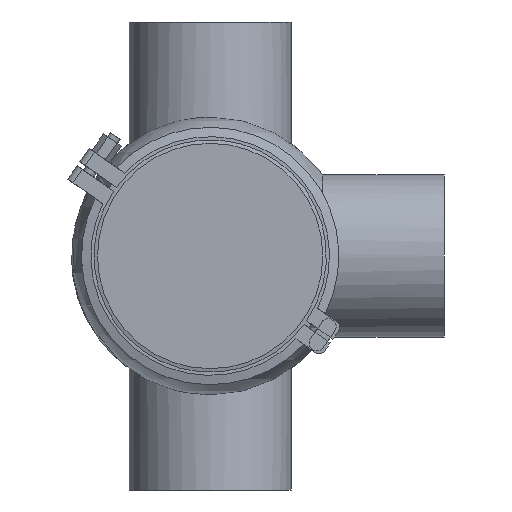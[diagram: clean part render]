
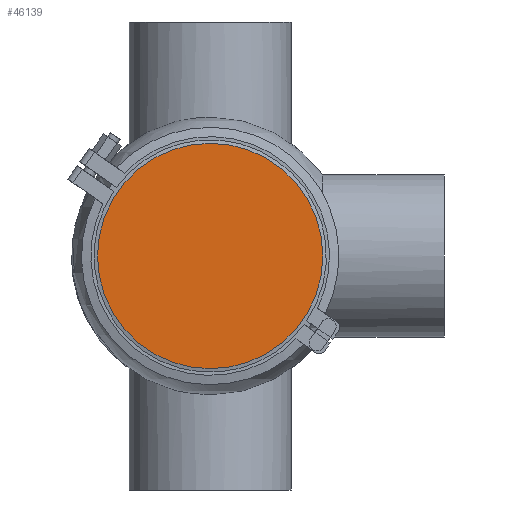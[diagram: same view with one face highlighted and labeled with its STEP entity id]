
A CAD part, front view. The second image highlights one B-rep face of the part: STEP entity #46139.
In plain terms, the highlighted planar face has unit normal (0, -1, 0).
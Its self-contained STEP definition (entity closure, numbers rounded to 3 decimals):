
#5348 = DIRECTION ( 'NONE',  ( 0., 1., 0. ) ) ;
#10088 = PLANE ( 'NONE',  #50427 ) ;
#11118 = CARTESIAN_POINT ( 'NONE',  ( 0., 0., 72.25 ) ) ;
#13773 = DIRECTION ( 'NONE',  ( 0., -1., 0. ) ) ;
#14720 = FACE_OUTER_BOUND ( 'NONE', #33154, .T. ) ;
#16163 = DIRECTION ( 'NONE',  ( 0., 0., 1. ) ) ;
#18784 = CIRCLE ( 'NONE', #31666, 72.25 ) ;
#19085 = ORIENTED_EDGE ( 'NONE', *, *, #20035, .F. ) ;
#20035 = EDGE_CURVE ( 'NONE', #49217, #49217, #18784, .T. ) ;
#23121 = DIRECTION ( 'NONE',  ( 0., 0., -1. ) ) ;
#28926 = CARTESIAN_POINT ( 'NONE',  ( 0., 0., 0. ) ) ;
#31666 = AXIS2_PLACEMENT_3D ( 'NONE', #28926, #5348, #16163 ) ;
#33154 = EDGE_LOOP ( 'NONE', ( #19085 ) ) ;
#46139 = ADVANCED_FACE ( 'NONE', ( #14720 ), #10088, .T. ) ;
#49217 = VERTEX_POINT ( 'NONE', #11118 ) ;
#50427 = AXIS2_PLACEMENT_3D ( 'NONE', #51315, #13773, #23121 ) ;
#51315 = CARTESIAN_POINT ( 'NONE',  ( -72.25, 0., 0. ) ) ;
